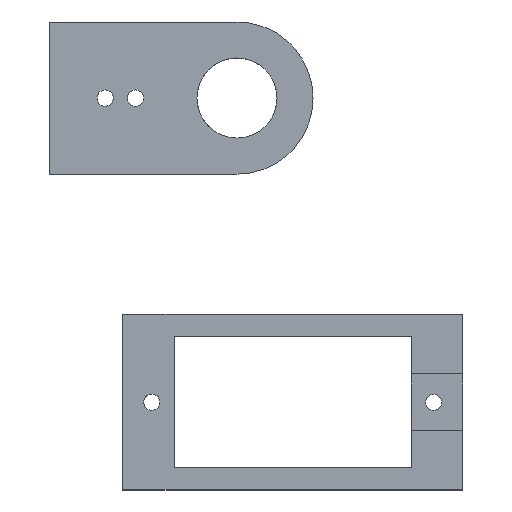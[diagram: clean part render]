
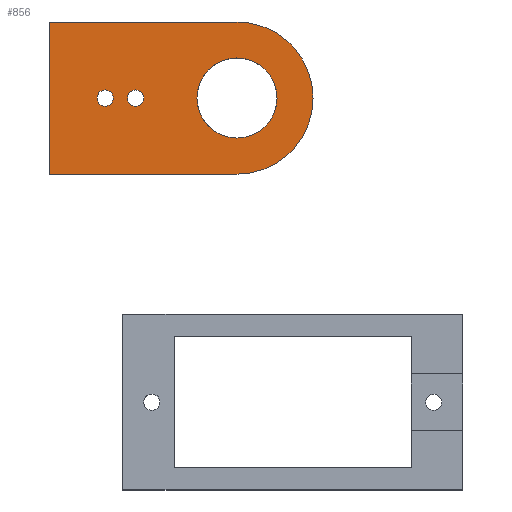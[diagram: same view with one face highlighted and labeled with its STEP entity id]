
A CAD part, top view. The second image highlights one B-rep face of the part: STEP entity #856.
In plain terms, the highlighted planar face has unit normal (0, 0, 1).
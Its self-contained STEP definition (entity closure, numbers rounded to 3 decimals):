
#608 = VERTEX_POINT('',#609);
#609 = CARTESIAN_POINT('',(-18.5,37.5,2.8));
#615 = EDGE_CURVE('',#608,#616,#618,.T.);
#616 = VERTEX_POINT('',#617);
#617 = CARTESIAN_POINT('',(0.,37.5,2.8));
#618 = LINE('',#619,#620);
#619 = CARTESIAN_POINT('',(-18.5,37.5,2.8));
#620 = VECTOR('',#621,1.);
#621 = DIRECTION('',(1.,0.,-0.));
#827 = EDGE_CURVE('',#828,#616,#830,.T.);
#828 = VERTEX_POINT('',#829);
#829 = CARTESIAN_POINT('',(7.5,30.,2.8));
#830 = CIRCLE('',#831,7.5);
#831 = AXIS2_PLACEMENT_3D('',#832,#833,#834);
#832 = CARTESIAN_POINT('',(0.,30.,2.8));
#833 = DIRECTION('',(0.,0.,1.));
#834 = DIRECTION('',(1.,0.,-0.));
#836 = EDGE_CURVE('',#837,#828,#839,.T.);
#837 = VERTEX_POINT('',#838);
#838 = CARTESIAN_POINT('',(0.,22.5,2.8));
#839 = CIRCLE('',#840,7.5);
#840 = AXIS2_PLACEMENT_3D('',#841,#842,#843);
#841 = CARTESIAN_POINT('',(0.,30.,2.8));
#842 = DIRECTION('',(0.,0.,1.));
#843 = DIRECTION('',(1.,0.,-0.));
#856 = ADVANCED_FACE('',(#857,#876,#887,#898),#909,.T.);
#857 = FACE_BOUND('',#858,.T.);
#858 = EDGE_LOOP('',(#859,#860,#868,#874,#875));
#859 = ORIENTED_EDGE('',*,*,#615,.F.);
#860 = ORIENTED_EDGE('',*,*,#861,.F.);
#861 = EDGE_CURVE('',#862,#608,#864,.T.);
#862 = VERTEX_POINT('',#863);
#863 = CARTESIAN_POINT('',(-18.5,22.5,2.8));
#864 = LINE('',#865,#866);
#865 = CARTESIAN_POINT('',(-18.5,22.5,2.8));
#866 = VECTOR('',#867,1.);
#867 = DIRECTION('',(-0.,1.,0.));
#868 = ORIENTED_EDGE('',*,*,#869,.T.);
#869 = EDGE_CURVE('',#862,#837,#870,.T.);
#870 = LINE('',#871,#872);
#871 = CARTESIAN_POINT('',(-18.5,22.5,2.8));
#872 = VECTOR('',#873,1.);
#873 = DIRECTION('',(1.,0.,-0.));
#874 = ORIENTED_EDGE('',*,*,#836,.T.);
#875 = ORIENTED_EDGE('',*,*,#827,.T.);
#876 = FACE_BOUND('',#877,.T.);
#877 = EDGE_LOOP('',(#878));
#878 = ORIENTED_EDGE('',*,*,#879,.F.);
#879 = EDGE_CURVE('',#880,#880,#882,.T.);
#880 = VERTEX_POINT('',#881);
#881 = CARTESIAN_POINT('',(3.95,30.,2.8));
#882 = CIRCLE('',#883,3.95);
#883 = AXIS2_PLACEMENT_3D('',#884,#885,#886);
#884 = CARTESIAN_POINT('',(0.,30.,2.8));
#885 = DIRECTION('',(0.,0.,1.));
#886 = DIRECTION('',(1.,0.,-0.));
#887 = FACE_BOUND('',#888,.T.);
#888 = EDGE_LOOP('',(#889));
#889 = ORIENTED_EDGE('',*,*,#890,.F.);
#890 = EDGE_CURVE('',#891,#891,#893,.T.);
#891 = VERTEX_POINT('',#892);
#892 = CARTESIAN_POINT('',(-12.2,30.,2.8));
#893 = CIRCLE('',#894,0.8);
#894 = AXIS2_PLACEMENT_3D('',#895,#896,#897);
#895 = CARTESIAN_POINT('',(-13.,30.,2.8));
#896 = DIRECTION('',(0.,0.,1.));
#897 = DIRECTION('',(1.,0.,-0.));
#898 = FACE_BOUND('',#899,.T.);
#899 = EDGE_LOOP('',(#900));
#900 = ORIENTED_EDGE('',*,*,#901,.F.);
#901 = EDGE_CURVE('',#902,#902,#904,.T.);
#902 = VERTEX_POINT('',#903);
#903 = CARTESIAN_POINT('',(-9.2,30.,2.8));
#904 = CIRCLE('',#905,0.8);
#905 = AXIS2_PLACEMENT_3D('',#906,#907,#908);
#906 = CARTESIAN_POINT('',(-10.,30.,2.8));
#907 = DIRECTION('',(0.,0.,1.));
#908 = DIRECTION('',(1.,0.,-0.));
#909 = PLANE('',#910);
#910 = AXIS2_PLACEMENT_3D('',#911,#912,#913);
#911 = CARTESIAN_POINT('',(-6.788,30.,2.8));
#912 = DIRECTION('',(0.,0.,1.));
#913 = DIRECTION('',(1.,0.,-0.));
